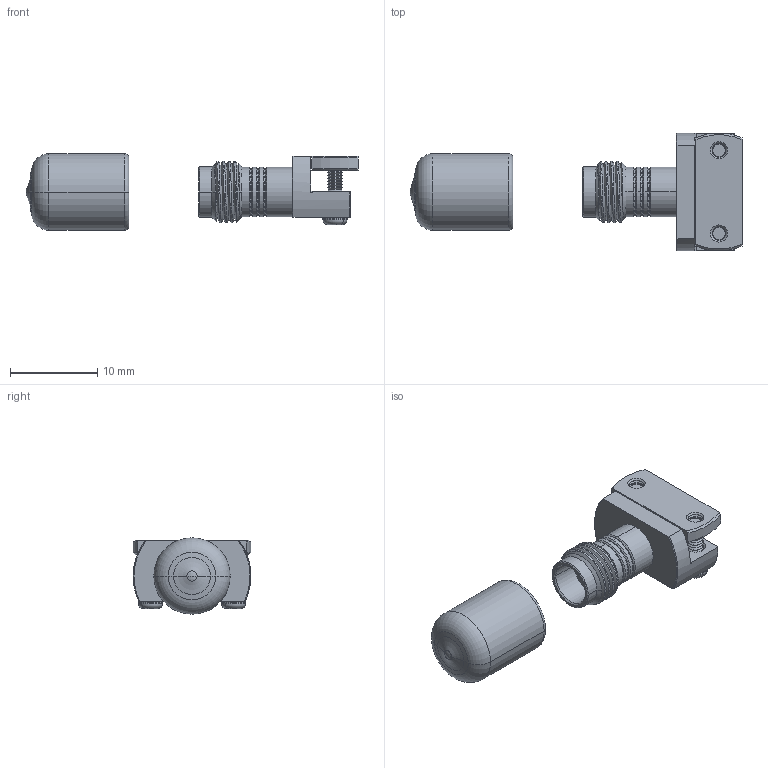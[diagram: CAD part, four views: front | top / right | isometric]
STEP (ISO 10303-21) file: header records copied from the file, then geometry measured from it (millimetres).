
FILE_DESCRIPTION (( 'STEP AP203' ), '1' );
FILE_NAME ('59-20007-44070D.STEP', '2019-12-11T01:26:19', ( '' ), ( '' ), 'SwSTEP 2.0', 'SolidWorks 2016', '' );
FILE_SCHEMA (( 'CONFIG_CONTROL_DESIGN' ));
Length unit declared in the file: millimetre
Products named in the file (19): 102-1130-700000C; 110-0012-440000B; 101-2192-440070C; 101-2198-440000C; 101-2545-440000A; 59-20007-44070D; 108-0059-900000B; 102-1416-700000A; 103-1871-226080A; 59-20007-44071D
Assembly tree (10 placements, depth 3):
  110-0012-440000B
  101-2192-440070C
  101-2198-440000C
  110-0012-440000B
  59-20007-44070D
    59-20007-44071D
      101-2192-440070C
      101-2545-440000A
      102-1416-700000A
      103-1871-226080A
      102-1130-700000C
      108-0059-900000B
    101-2198-440000C
    110-0012-440000B  x2
Bounding box: 38.04 x 13.5 x 8.75 mm (x, y, z)
Volume: 940 mm3; surface area: 1873.9 mm2
Topology: 9 solids, 9 shells, 507 faces, 1163 edges, 687 vertices
Faces by surface type: cone 256, cylinder 99, plane 90, torus 38, bspline 18, sphere 6
Entity records: 15619 total; most frequent: CARTESIAN_POINT 4497, DIRECTION 2134, ORIENTED_EDGE 1882, EDGE_CURVE 941, AXIS2_PLACEMENT_3D 889, VERTEX_POINT 563, CIRCLE 476, EDGE_LOOP 436
